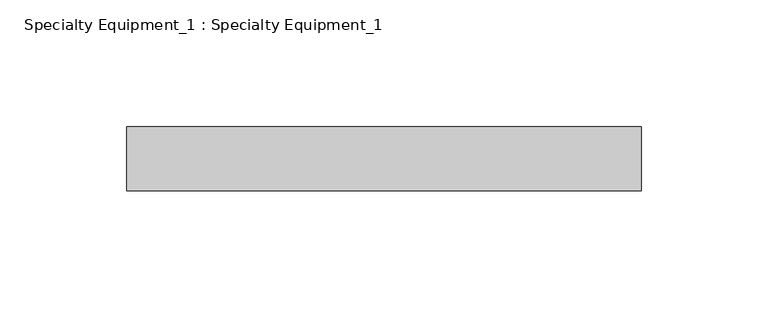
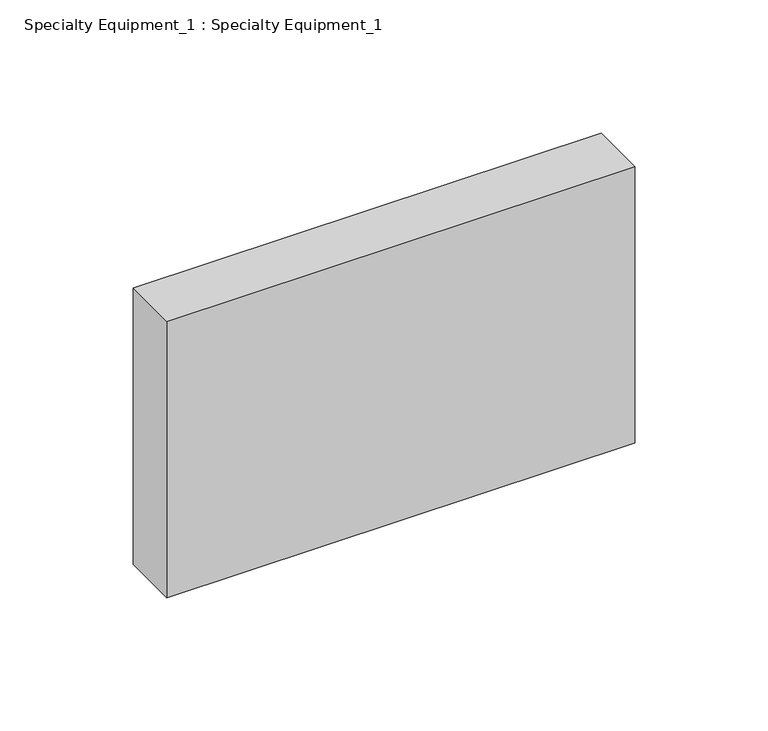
"""IFC4 building model written with IfcOpenShell, lengths in millimetres: proxy geometry, Specialty Equipment_1 : Specialty Equipment_1."""

from ifc_helpers import new_model, si_unit, origin, origin_with_axes, place, context, project, spatial, polyline, outline, extrude, source, transform, mapped, element, save


def specialty_equipment_1_specialty_equipment_1_e1410e21(model_context):
    return source(origin(), model_context, "Body", "SweptSolid", [
        extrude(outline(polyline([(101.6, 0.0), (101.6, -25.4), (-101.6, -25.4), (-101.6, 0.0), (101.6, 0.0)])), origin_with_axes(), (0.0, 0.0, 1.0), 127.0),
    ])


if __name__ == "__main__":
    model = new_model("IFC4")
    model_context = context("Model", 3, world=origin())
    ifc_project = project(units=[si_unit("LENGTHUNIT", "METRE", prefix="MILLI")], contexts=[model_context])
    site = spatial("IfcSite", under=ifc_project)
    building = spatial("IfcBuilding", under=site)
    placement = place(None, origin())
    specialty_equipment_1_specialty_equipment_1_shape = specialty_equipment_1_specialty_equipment_1_e1410e21(model_context)
    element("IfcBuildingElementProxy", 1, Name="Specialty Equipment_1 : Specialty Equipment_1", ObjectType="Specialty Equipment_1 : Specialty Equipment_1", at=placement, inside=building, context=model_context, shape_type="MappedRepresentation", body=[
        mapped(specialty_equipment_1_specialty_equipment_1_shape, transform((0.0, 0.0, 0.0), x_axis=(1.0, 0.0, 0.0), y_axis=(0.0, 1.0, 0.0), z_axis=(0.0, 0.0, 1.0))),
    ])
    save(model, "model.ifc")
